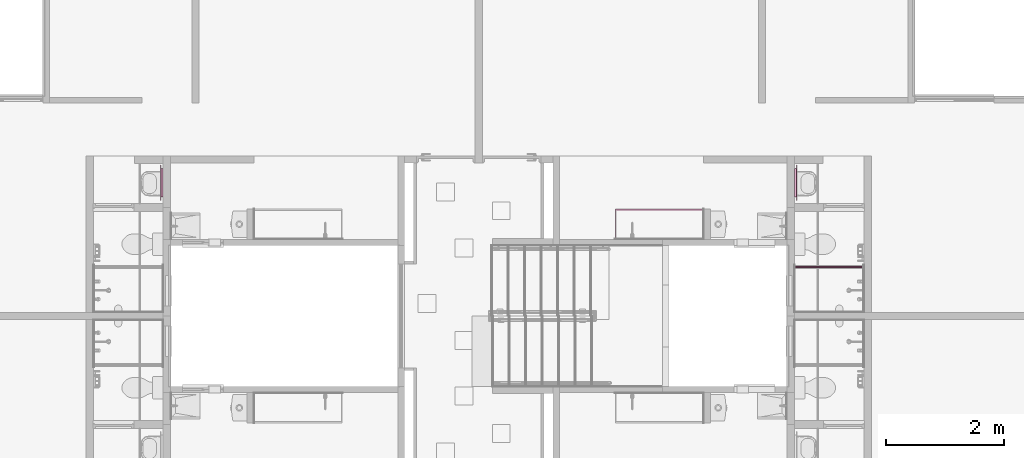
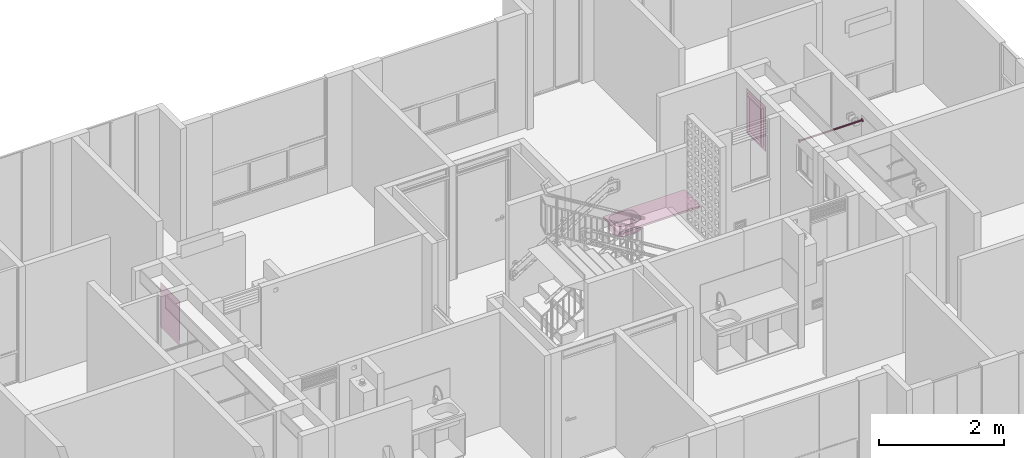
# One storey, part 44 of 48: 4 furniture elements.
"""IFC4 building model written with IfcOpenShell, lengths in metres."""

import ifcopenshell
import ifcopenshell.guid

model = None  # the IFC model being written
_history = None  # IfcOwnerHistory: only IFC2X3 demands one
_inside = {}  # id of a spatial element -> (the spatial element, [elements in it])
_under = {}  # id of a project, library or spatial element -> (it, [spatial elements below it])
_declared = {}  # id of a project -> (the project, [libraries it declares])
_typed = {}  # id of a type object -> (the type object, [elements of that type])
_made_of = {}  # id of a material, layer set ... -> (it, [elements and type objects made of it])


def new_model(schema):
    """Start an empty IFC model of exactly this schema.

    Asked for "IFC4X3", IfcOpenShell would pick the latest addendum, in which some entities
    have other attributes; the version numbers below select the first issue.
    IFC2X3 requires an IfcOwnerHistory on every rooted entity: one is made here for all.
    """
    global model, _history
    if schema == "IFC4X3":
        model = ifcopenshell.file(schema_version=(4, 3, 0, 0))
    else:
        model = ifcopenshell.file(schema=schema)
    _inside.clear()
    _under.clear()
    _declared.clear()
    _typed.clear()
    _made_of.clear()
    _history = None
    if model.schema == "IFC2X3":
        org = make("IfcOrganization", Name="unknown")
        user = make(
            "IfcPersonAndOrganization",
            ThePerson=make("IfcPerson", FamilyName="unknown"),
            TheOrganization=org,
        )
        app = make(
            "IfcApplication",
            ApplicationDeveloper=org,
            Version="unknown",
            ApplicationFullName="unknown",
            ApplicationIdentifier="unknown",
        )
        _history = make(
            "IfcOwnerHistory",
            OwningUser=user,
            OwningApplication=app,
            ChangeAction="ADDED",
            CreationDate=0,
        )
    return model


def make(cls, **values):
    """One entity of the class cls with the attributes given. An attribute that is None is left unset."""
    return model.create_entity(
        cls, **{name: value for name, value in values.items() if value is not None}
    )


def entity(cls, *values):
    """Any entity or typed value of the class cls, its attributes in the order of the schema. None: left unset."""
    e = model.create_entity(cls)
    for i, value in enumerate(values):
        if value is not None:
            e[i] = value
    return e


def rooted(cls, **values):
    """An entity with a GlobalId (a new one), such as an element, a storey or a relation."""
    return make(cls, GlobalId=ifcopenshell.guid.new(), OwnerHistory=_history, **values)


def si_unit(unit_type, name, prefix=None):
    """IfcSIUnit, for example si_unit("LENGTHUNIT", "METRE", prefix="MILLI")."""
    return make("IfcSIUnit", UnitType=unit_type, Prefix=prefix, Name=name)


def converted_unit(unit_type, name, factor, base, dimensions=None, offset=None):
    """IfcConversionBasedUnit, such as the inch: factor (a typed value) times the base unit."""
    return make(
        "IfcConversionBasedUnit"
        if offset is None
        else "IfcConversionBasedUnitWithOffset",
        ConversionOffset=offset,
        Dimensions=None
        if dimensions is None
        else entity("IfcDimensionalExponents", *dimensions),
        UnitType=unit_type,
        Name=name,
        ConversionFactor=make(
            "IfcMeasureWithUnit", ValueComponent=factor, UnitComponent=base
        ),
    )


def derived_unit(unit_type, elements):
    """IfcDerivedUnit: a product of units, each with its exponent."""
    return make(
        "IfcDerivedUnit",
        Elements=[
            make("IfcDerivedUnitElement", Unit=unit, Exponent=power)
            for unit, power in elements
        ],
        UnitType=unit_type,
    )


def assignment(units):
    """IfcUnitAssignment: the units of a project."""
    return None if units is None else make("IfcUnitAssignment", Units=units)


def point(xyz):
    """IfcCartesianPoint."""
    return None if xyz is None else make("IfcCartesianPoint", Coordinates=xyz)


def direction(xyz):
    """IfcDirection."""
    return None if xyz is None else make("IfcDirection", DirectionRatios=xyz)


def frame(location, z_axis=None, x_axis=None):
    """IfcAxis2Placement3D, a coordinate frame: its origin and axes. An axis left out is left unset."""
    return make(
        "IfcAxis2Placement3D",
        Location=point(location),
        Axis=direction(z_axis),
        RefDirection=direction(x_axis),
    )


def origin():
    """The frame at (0, 0, 0) with its axes left unset."""
    return frame((0.0, 0.0, 0.0))


def place(relative_to, where):
    """IfcLocalPlacement: puts the frame where relative to a parent placement (None: the world)."""
    return make(
        "IfcLocalPlacement", PlacementRelTo=relative_to, RelativePlacement=where
    )


def context(
    kind, dimensions, precision=None, world=None, true_north=None, identifier=None
):
    """IfcGeometricRepresentationContext, for example the 3D "Model" context."""
    return make(
        "IfcGeometricRepresentationContext",
        ContextIdentifier=identifier,
        ContextType=kind,
        CoordinateSpaceDimension=dimensions,
        Precision=precision,
        WorldCoordinateSystem=world,
        TrueNorth=true_north,
    )


def subcontext(parent, identifier, kind, view, scale=None):
    """IfcGeometricRepresentationSubContext, for example "Body" below "Model"."""
    return make(
        "IfcGeometricRepresentationSubContext",
        ContextIdentifier=identifier,
        ContextType=kind,
        ParentContext=parent,
        TargetScale=scale,
        TargetView=view,
    )


def project(units=None, contexts=None):
    """IfcProject with its units and contexts."""
    return rooted(
        "IfcProject",
        Name="project",
        RepresentationContexts=contexts,
        UnitsInContext=assignment(units),
    )


def spatial(cls, under=None, at=None, **own):
    """A site, building, storey or space (cls), placed at a placement, below another one or the project."""
    s = rooted(cls, ObjectPlacement=at, **own)
    if under is not None:
        _under.setdefault(under.id(), (under, []))[1].append(s)
    return s


def point_list(points):
    """IfcCartesianPointList2D or 3D."""
    cls = (
        "IfcCartesianPointList2D" if len(points[0]) == 2 else "IfcCartesianPointList3D"
    )
    return make(cls, CoordList=points)


def arc(*indices):
    """IfcArcIndex: an arc through three numbered points of an indexed curve."""
    return model.create_entity("IfcArcIndex", indices)


def indexed_curve(points, segments=None, self_intersect=None):
    """IfcIndexedPolyCurve: lines and arcs through numbered points (the first is 1)."""
    return make(
        "IfcIndexedPolyCurve",
        Points=point_list(points),
        Segments=segments,
        SelfIntersect=self_intersect,
    )


def outline(outer, holes=None, kind="AREA"):
    """IfcArbitraryClosedProfileDef: a profile drawn as a closed curve; with holes, ...WithVoids."""
    if holes is None:
        return make("IfcArbitraryClosedProfileDef", ProfileType=kind, OuterCurve=outer)
    return make(
        "IfcArbitraryProfileDefWithVoids",
        ProfileType=kind,
        OuterCurve=outer,
        InnerCurves=holes,
    )


def extrude(swept, where, along, depth):
    """IfcExtrudedAreaSolid: the profile swept, set in the frame where, extruded along a direction by depth."""
    return make(
        "IfcExtrudedAreaSolid",
        SweptArea=swept,
        Position=where,
        ExtrudedDirection=direction(along),
        Depth=depth,
    )


def polygons(points, faces, closed=None, point_numbers=None):
    """IfcPolygonalFaceSet: a face is its outer loop, then its inner loops; points numbered from 1."""
    made = []
    for loops in faces:
        if len(loops) == 1:
            made.append(make("IfcIndexedPolygonalFace", CoordIndex=loops[0]))
        else:
            made.append(
                make(
                    "IfcIndexedPolygonalFaceWithVoids",
                    CoordIndex=loops[0],
                    InnerCoordIndices=loops[1:],
                )
            )
    return make(
        "IfcPolygonalFaceSet",
        Coordinates=point_list(points),
        Closed=closed,
        Faces=made,
        PnIndex=point_numbers,
    )


def shape(context_of_items, identifier, shape_type, items):
    """IfcShapeRepresentation: the items that make up one representation, for example the "Body"."""
    return make(
        "IfcShapeRepresentation",
        ContextOfItems=context_of_items,
        RepresentationIdentifier=identifier,
        RepresentationType=shape_type,
        Items=items,
    )


def source(mapping_origin, context_of_items, identifier, shape_type, items):
    """IfcRepresentationMap: a shape defined once, which mapped items show again and again."""
    return make(
        "IfcRepresentationMap",
        MappingOrigin=mapping_origin,
        MappedRepresentation=shape(context_of_items, identifier, shape_type, items),
    )


def transform(
    local_origin,
    x_axis=None,
    y_axis=None,
    z_axis=None,
    scale=None,
    scale2=None,
    scale3=None,
    uniform=True,
):
    """IfcCartesianTransformationOperator3D, or its non-uniform kind. x_axis, y_axis, z_axis: its Axis1, 2, 3."""
    if uniform:
        return make(
            "IfcCartesianTransformationOperator3D",
            Axis1=direction(x_axis),
            Axis2=direction(y_axis),
            LocalOrigin=point(local_origin),
            Scale=scale,
            Axis3=direction(z_axis),
        )
    return make(
        "IfcCartesianTransformationOperator3DnonUniform",
        Axis1=direction(x_axis),
        Axis2=direction(y_axis),
        LocalOrigin=point(local_origin),
        Scale=scale,
        Axis3=direction(z_axis),
        Scale2=scale2,
        Scale3=scale3,
    )


def mapped(mapping_source, mapping_target):
    """IfcMappedItem: shows the shape of a source again, moved by a transform."""
    return make(
        "IfcMappedItem", MappingSource=mapping_source, MappingTarget=mapping_target
    )


def material(Name=None, Category=None):
    """IfcMaterial."""
    return make("IfcMaterial", Name=Name, Category=Category)


def constituent(of_material, Name=None, Category=None, fraction=None):
    """IfcMaterialConstituent: one of the materials an element consists of."""
    return make(
        "IfcMaterialConstituent",
        Name=Name,
        Material=of_material,
        Fraction=fraction,
        Category=Category,
    )


def constituent_set(constituents=None, Name=None):
    """IfcMaterialConstituentSet."""
    return make(
        "IfcMaterialConstituentSet", Name=Name, MaterialConstituents=constituents
    )


def made_of(thing, what):
    """Note that an element or type object is made of a material, layer set ...; save() writes the relation."""
    if what is not None:
        _made_of.setdefault(what.id(), (what, []))[1].append(thing)
    return thing


def type_object(cls, material=None, **own):
    """A type object (cls), such as IfcWallType, which elements share."""
    return made_of(rooted(cls, **own), material)


def type_shapes(of_type, sources):
    """Give a type object the sources (RepresentationMaps) that its elements show as mapped items."""
    of_type.RepresentationMaps = sources


def element(
    cls,
    number,
    at=None,
    inside=None,
    cuts=None,
    type_object=None,
    material=None,
    context=None,
    identifier="Body",
    shape_type=None,
    held_by="IfcProductDefinitionShape",
    body=None,
    shapes=None,
    **own,
):
    """One element of the class cls, such as IfcWall. Its Tag is "e" and its number.

    at: its placement. inside: the storey or other place that contains it. cuts: it is an
    opening in that element (IfcRelVoidsElement). A single representation is given by context,
    identifier, shape_type and body (its items); several are given by shapes. held_by: the class
    of the entity that holds the representations. save() writes the other relations.
    """
    e = rooted(cls, Tag="e%d" % number, ObjectPlacement=at, **own)
    if body is not None:
        shapes = [shape(context, identifier, shape_type, body)]
    if shapes is not None:
        e.Representation = make(held_by, Representations=shapes)
    if inside is not None:
        _inside.setdefault(inside.id(), (inside, []))[1].append(e)
    if cuts is not None:
        rooted(
            "IfcRelVoidsElement", RelatingBuildingElement=cuts, RelatedOpeningElement=e
        )
    if type_object is not None:
        _typed.setdefault(type_object.id(), (type_object, []))[1].append(e)
    return made_of(e, material)


def aggregate(whole, parts):
    """IfcRelAggregates: a whole, such as a stair, and the parts it consists of."""
    return rooted("IfcRelAggregates", RelatingObject=whole, RelatedObjects=parts)


def save(model, path):
    """Write the relations noted so far, then the file.

    IfcRelAggregates (storeys below a building ...), IfcRelContainedInSpatialStructure (elements
    in a storey), IfcRelDefinesByType, IfcRelAssociatesMaterial and IfcRelDeclares: one each for
    every whole, place, type object, material and project.
    """
    for whole, parts in _under.values():
        aggregate(whole, parts)
    for where, things in _inside.values():
        rooted(
            "IfcRelContainedInSpatialStructure",
            RelatedElements=things,
            RelatingStructure=where,
        )
    for kind, things in _typed.values():
        rooted("IfcRelDefinesByType", RelatedObjects=things, RelatingType=kind)
    for what, things in _made_of.values():
        rooted("IfcRelAssociatesMaterial", RelatedObjects=things, RelatingMaterial=what)
    for by, libraries in _declared.values():
        rooted("IfcRelDeclares", RelatingContext=by, RelatedDefinitions=libraries)
    model.write(path)


model = new_model("IFC4")

# Units and contexts
model_context = context("Model", 3, precision=1e-05, world=origin(), true_north=direction((6.123031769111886e-17, 1.0)))
body_context = subcontext(model_context, "Body", "Model", "MODEL_VIEW")
ifc_project = project(units=[si_unit("LENGTHUNIT", "METRE"), si_unit("AREAUNIT", "SQUARE_METRE"), si_unit("VOLUMEUNIT", "CUBIC_METRE"), converted_unit("PLANEANGLEUNIT", "DEGREE", entity("IfcRatioMeasure", 0.017453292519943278), si_unit("PLANEANGLEUNIT", "RADIAN"), dimensions=[0, 0, 0, 0, 0, 0, 0]), si_unit("MASSUNIT", "GRAM", prefix="KILO"), derived_unit("MASSDENSITYUNIT", [(si_unit("MASSUNIT", "GRAM", prefix="KILO"), 1), (si_unit("LENGTHUNIT", "METRE"), -3)]), derived_unit("IONCONCENTRATIONUNIT", [(si_unit("MASSUNIT", "GRAM", prefix="KILO"), 1), (si_unit("LENGTHUNIT", "METRE"), -3)]), derived_unit("MOMENTOFINERTIAUNIT", [(si_unit("LENGTHUNIT", "METRE"), 4)]), si_unit("TIMEUNIT", "SECOND"), si_unit("FREQUENCYUNIT", "HERTZ"), si_unit("THERMODYNAMICTEMPERATUREUNIT", "DEGREE_CELSIUS"), derived_unit("THERMALTRANSMITTANCEUNIT", [(si_unit("MASSUNIT", "GRAM", prefix="KILO"), 1), (si_unit("THERMODYNAMICTEMPERATUREUNIT", "KELVIN"), -1), (si_unit("TIMEUNIT", "SECOND"), -3)]), derived_unit("THERMALCONDUCTANCEUNIT", [(si_unit("MASSUNIT", "GRAM", prefix="KILO"), 1), (si_unit("THERMODYNAMICTEMPERATUREUNIT", "KELVIN"), -1), (si_unit("TIMEUNIT", "SECOND"), -3), (si_unit("LENGTHUNIT", "METRE"), 1)]), derived_unit("VOLUMETRICFLOWRATEUNIT", [(si_unit("LENGTHUNIT", "METRE"), 3), (si_unit("TIMEUNIT", "SECOND"), -1)]), derived_unit("MASSFLOWRATEUNIT", [(si_unit("MASSUNIT", "GRAM", prefix="KILO"), 1), (si_unit("TIMEUNIT", "SECOND"), -1)]), derived_unit("ROTATIONALFREQUENCYUNIT", [(si_unit("TIMEUNIT", "SECOND"), -1)]), si_unit("ELECTRICCURRENTUNIT", "AMPERE"), si_unit("ELECTRICVOLTAGEUNIT", "VOLT"), si_unit("POWERUNIT", "WATT"), si_unit("FORCEUNIT", "NEWTON", prefix="KILO"), si_unit("ILLUMINANCEUNIT", "LUX"), si_unit("LUMINOUSFLUXUNIT", "LUMEN"), si_unit("LUMINOUSINTENSITYUNIT", "CANDELA"), derived_unit("USERDEFINED", [(si_unit("MASSUNIT", "GRAM", prefix="KILO"), -1), (si_unit("LENGTHUNIT", "METRE"), -2), (si_unit("TIMEUNIT", "SECOND"), 3), (si_unit("LUMINOUSFLUXUNIT", "LUMEN"), 1)]), derived_unit("USERDEFINED", [(si_unit("MASSUNIT", "GRAM", prefix="KILO"), 1), (si_unit("TIMEUNIT", "SECOND"), -3), (si_unit("LENGTHUNIT", "METRE"), 3), (si_unit("ELECTRICCURRENTUNIT", "AMPERE"), -2)]), derived_unit("SOUNDPOWERUNIT", [(si_unit("MASSUNIT", "GRAM", prefix="KILO"), 1), (si_unit("TIMEUNIT", "SECOND"), -3), (si_unit("LENGTHUNIT", "METRE"), 2)]), derived_unit("SOUNDPRESSUREUNIT", [(si_unit("MASSUNIT", "GRAM", prefix="KILO"), 1), (si_unit("LENGTHUNIT", "METRE"), -1), (si_unit("TIMEUNIT", "SECOND"), -2)]), derived_unit("LINEARVELOCITYUNIT", [(si_unit("LENGTHUNIT", "METRE"), 1), (si_unit("TIMEUNIT", "SECOND"), -1)]), si_unit("PRESSUREUNIT", "PASCAL"), derived_unit("USERDEFINED", [(si_unit("MASSUNIT", "GRAM", prefix="KILO"), 1), (si_unit("LENGTHUNIT", "METRE"), -2), (si_unit("TIMEUNIT", "SECOND"), -2)]), derived_unit("LINEARFORCEUNIT", [(si_unit("MASSUNIT", "GRAM", prefix="KILO"), 1), (si_unit("TIMEUNIT", "SECOND"), -2)]), derived_unit("PLANARFORCEUNIT", [(si_unit("MASSUNIT", "GRAM", prefix="KILO"), 1), (si_unit("LENGTHUNIT", "METRE"), -1), (si_unit("TIMEUNIT", "SECOND"), -2)]), derived_unit("SPECIFICHEATCAPACITYUNIT", [(si_unit("THERMODYNAMICTEMPERATUREUNIT", "KELVIN"), -1), (si_unit("LENGTHUNIT", "METRE"), 2), (si_unit("TIMEUNIT", "SECOND"), -2)]), derived_unit("HEATINGVALUEUNIT", [(si_unit("LENGTHUNIT", "METRE"), 2), (si_unit("TIMEUNIT", "SECOND"), -2)]), derived_unit("VAPORPERMEABILITYUNIT", [(si_unit("LENGTHUNIT", "METRE"), -1), (si_unit("TIMEUNIT", "SECOND"), 1)]), derived_unit("DYNAMICVISCOSITYUNIT", [(si_unit("MASSUNIT", "GRAM", prefix="KILO"), 1), (si_unit("TIMEUNIT", "SECOND"), -1), (si_unit("LENGTHUNIT", "METRE"), -1)]), derived_unit("THERMALEXPANSIONCOEFFICIENTUNIT", [(si_unit("THERMODYNAMICTEMPERATUREUNIT", "KELVIN"), -1)]), derived_unit("MODULUSOFELASTICITYUNIT", [(si_unit("MASSUNIT", "GRAM", prefix="KILO"), 1), (si_unit("LENGTHUNIT", "METRE"), -1), (si_unit("TIMEUNIT", "SECOND"), -2)]), derived_unit("ISOTHERMALMOISTURECAPACITYUNIT", [(si_unit("LENGTHUNIT", "METRE"), 3), (si_unit("MASSUNIT", "GRAM", prefix="KILO"), -1)]), derived_unit("MOISTUREDIFFUSIVITYUNIT", [(si_unit("TIMEUNIT", "SECOND"), -1), (si_unit("LENGTHUNIT", "METRE"), 2)])], contexts=[model_context])

# Site, building, storey
site_placement = place(None, origin())
site = spatial("IfcSite", under=ifc_project, at=site_placement, Name="Default", CompositionType="ELEMENT")
building_placement = place(site_placement, origin())
building = spatial("IfcBuilding", under=site, at=building_placement, CompositionType="ELEMENT")
storey_placement = place(building_placement, frame((0.0, 0.0, 7.050000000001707)))
storey = spatial("IfcBuildingStorey", under=building, at=storey_placement, Name="Nivel 4", CompositionType="ELEMENT", Elevation=7.050000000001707)

# Furniture
ifc_material_1 = material(Name="Aluminio", Category="Materials")
ifc_constituent_1 = constituent(ifc_material_1, Name="Aluminio", Category="Materials")
ifc_material_2 = material(Name="ESPEJO", Category="Materials")
ifc_constituent_2 = constituent(ifc_material_2, Name="ESPEJO", Category="Materials")
ifc_constituent_set_1 = constituent_set(constituents=[ifc_constituent_1, ifc_constituent_2])
ifc_constituent_3 = constituent(ifc_material_1, Name="Aluminio", Category="Materials")
ifc_constituent_4 = constituent(ifc_material_2, Name="ESPEJO", Category="Materials")
ifc_constituent_set_2 = constituent_set(constituents=[ifc_constituent_3, ifc_constituent_4])
furniture_type_1 = type_object("IfcFurnitureType", Name="E2050 - Espejo:E2050 - 0.60m x 0.87m - Espejo", AssemblyPlace="NOTDEFINED", PredefinedType="NOTDEFINED", material=ifc_constituent_set_2)
shared_shape_1 = source(origin(), body_context, "Body", "SweptSolid", [
    extrude(outline(indexed_curve([(-0.23999999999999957, -0.3749999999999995), (0.2399999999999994, -0.3749999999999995), (0.2399999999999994, 0.37499999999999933), (-0.23999999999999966, 0.3749999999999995), (-0.23999999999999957, -0.3749999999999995)], self_intersect=False), holes=[indexed_curve([(0.2149999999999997, -0.34999999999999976), (-0.21499999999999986, -0.34999999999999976), (-0.21499999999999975, 0.34999999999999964), (0.2149999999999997, 0.34999999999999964), (0.2149999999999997, -0.34999999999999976)], self_intersect=False)]), frame((0.12499999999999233, 0.062499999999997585, 1.485), z_axis=(0.0, 1.0, 0.0), x_axis=(1.0, 0.0, 0.0)), (0.0, 0.0, 1.0), 0.037500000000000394),
    extrude(outline(indexed_curve([(-0.00350000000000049, -0.30000000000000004), (0.00350000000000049, -0.30000000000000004), (0.00350000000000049, 0.30000000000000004), (-0.00350000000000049, 0.30000000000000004), (-0.00350000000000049, -0.30000000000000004)], self_intersect=False)), frame((0.1249999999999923, 0.10350000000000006, 1.05), z_axis=(0.0, 0.0, 1.0), x_axis=(0.0, 1.0, 0.0)), (0.0, 0.0, 1.0), 0.87),
])
type_shapes(furniture_type_1, [shared_shape_1])
furniture_1_placement = place(storey_placement, frame((14.620000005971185, -4.035000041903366, -0.02000000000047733), z_axis=(0.0, 0.0, 1.0), x_axis=(0.0, -1.0, 0.0)))
element("IfcFurniture", 1, at=furniture_1_placement, inside=storey, type_object=furniture_type_1, material=ifc_constituent_set_1, Name="E2050 - Espejo:E2050 - 0.60m x 0.87m - Espejo", ObjectType="E2050 - Espejo:E2050 - 0.60m x 0.87m - Espejo", PredefinedType="NOTDEFINED", context=body_context, shape_type="MappedRepresentation", body=[
    mapped(shared_shape_1, transform((0.0, 0.0, 0.0), scale=1.0)),
])
ifc_constituent_5 = constituent(ifc_material_1, Name="Aluminio", Category="Materials")
ifc_constituent_6 = constituent(ifc_material_2, Name="ESPEJO", Category="Materials")
ifc_constituent_set_3 = constituent_set(constituents=[ifc_constituent_5, ifc_constituent_6])
ifc_constituent_7 = constituent(ifc_material_1, Name="Aluminio", Category="Materials")
ifc_constituent_8 = constituent(ifc_material_2, Name="ESPEJO", Category="Materials")
ifc_constituent_set_4 = constituent_set(constituents=[ifc_constituent_7, ifc_constituent_8])
furniture_type_2 = type_object("IfcFurnitureType", Name="E2050 - Espejo:E2050 - 0.60m x 0.87m - Espejo", AssemblyPlace="NOTDEFINED", PredefinedType="NOTDEFINED", material=ifc_constituent_set_4)
shared_shape_2 = source(origin(), body_context, "Body", "SweptSolid", [
    extrude(outline(indexed_curve([(-0.3749999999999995, -0.2399999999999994), (0.37499999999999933, -0.23999999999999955), (0.3749999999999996, 0.2399999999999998), (-0.3749999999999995, 0.23999999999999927), (-0.3749999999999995, -0.2399999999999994)], self_intersect=False), holes=[indexed_curve([(-0.34999999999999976, 0.21499999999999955), (0.34999999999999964, 0.21499999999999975), (0.34999999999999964, -0.21499999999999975), (-0.34999999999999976, -0.21499999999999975), (-0.34999999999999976, 0.21499999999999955)], self_intersect=False)]), frame((0.12499999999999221, -0.09999999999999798, 1.485), z_axis=(0.0, 1.0, 0.0), x_axis=(0.0, 0.0, -1.0)), (0.0, 0.0, 1.0), 0.037500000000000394),
    extrude(outline(indexed_curve([(-0.30000000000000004, -0.00350000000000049), (0.30000000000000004, -0.00350000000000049), (0.30000000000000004, 0.00350000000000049), (-0.30000000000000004, 0.00350000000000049), (-0.30000000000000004, -0.00350000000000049)], self_intersect=False)), frame((0.1249999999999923, -0.10350000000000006, 1.05), z_axis=(0.0, 0.0, 1.0), x_axis=(-1.0, 0.0, 0.0)), (0.0, 0.0, 1.0), 0.87),
])
type_shapes(furniture_type_2, [shared_shape_2])
furniture_2_placement = place(storey_placement, frame((4.024999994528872, -4.035000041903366, -0.02000000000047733), z_axis=(0.0, 0.0, 1.0), x_axis=(0.0, -1.0, 0.0)))
element("IfcFurniture", 2, at=furniture_2_placement, inside=storey, type_object=furniture_type_2, material=ifc_constituent_set_3, Name="E2050 - Espejo:E2050 - 0.60m x 0.87m - Espejo", ObjectType="E2050 - Espejo:E2050 - 0.60m x 0.87m - Espejo", PredefinedType="NOTDEFINED", context=body_context, shape_type="MappedRepresentation", body=[
    mapped(shared_shape_2, transform((0.0, 0.0, 0.0), scale=1.0)),
])

# Space
space_1_placement = place(storey_placement, origin())
space_1 = spatial("IfcSpace", under=storey, at=space_1_placement, Name="218", CompositionType="ELEMENT", PredefinedType="SPACE")

# Furniture
ifc_material_3 = material(Name="<Unnamed>")
furniture_type_3 = type_object("IfcFurnitureType", Name="Barra baño:E2050- Barra Baño- Acero inoxidable", AssemblyPlace="NOTDEFINED", PredefinedType="NOTDEFINED", material=ifc_material_3)
shared_shape_3 = source(origin(), body_context, "Body", "SweptSolid", [
    extrude(outline(indexed_curve([(-0.025, 0.0), (-9.341026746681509e-17, -0.025), (0.025, 2.707167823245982e-16), (-1.316959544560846e-16, 0.025)], segments=[arc(1, 2, 3), arc(3, 4, 1)], self_intersect=False)), frame((-1.1599989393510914, 0.0, 1.8000000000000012), z_axis=(1.0, 0.0, 0.0), x_axis=(0.0, 1.0, 0.0)), (0.0, 0.0, 1.0), 0.005000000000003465),
    extrude(outline(indexed_curve([(-0.03, 0.0), (-1.1209232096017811e-16, -0.029999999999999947), (0.03, 2.707167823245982e-16), (-1.3138979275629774e-16, 0.029999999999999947)], segments=[arc(1, 2, 3), arc(3, 4, 1)], self_intersect=False)), frame((-1.164998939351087, 0.0, 1.8000000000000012), z_axis=(1.0, 0.0, 0.0), x_axis=(0.0, 1.0, 0.0)), (0.0, 0.0, 1.0), 0.0049999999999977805),
    extrude(outline(indexed_curve([(-0.0125, 0.0), (-4.6705133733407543e-17, -0.012499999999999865), (0.0125, 0.0), (7.654042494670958e-19, 0.012499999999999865)], segments=[arc(1, 2, 3), arc(3, 4, 1)], self_intersect=False)), frame((-1.1549989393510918, 0.0, 1.7999999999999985), z_axis=(1.0, 0.0, 0.0), x_axis=(0.0, 1.0, 0.0)), (0.0, 0.0, 1.0), 1.149998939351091),
    extrude(outline(indexed_curve([(-0.025, 0.0), (-2.2663703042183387e-16, -0.025), (0.025, 0.0), (1.5308084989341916e-18, 0.025)], segments=[arc(1, 2, 3), arc(3, 4, 1)], self_intersect=False)), frame((-0.005000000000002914, 0.0, 1.7999999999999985), z_axis=(1.0, 0.0, 0.0), x_axis=(0.0, 1.0, 0.0)), (0.0, 0.0, 1.0), 0.005000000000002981),
    extrude(outline(indexed_curve([(-0.03, 0.0), (-2.1867373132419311e-16, -0.029999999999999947), (0.03, 0.0), (1.8369701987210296e-18, 0.029999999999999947)], segments=[arc(1, 2, 3), arc(3, 4, 1)], self_intersect=False)), frame((0.0, 0.0, 1.7999999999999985), z_axis=(1.0, 0.0, 0.0), x_axis=(0.0, 1.0, 0.0)), (0.0, 0.0, 1.0), 0.00499999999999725),
])
type_shapes(furniture_type_3, [shared_shape_3])
furniture_3_placement = place(space_1_placement, frame((14.69250000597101, -5.590000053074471, 0.1299999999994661), z_axis=(0.0, 0.0, 1.0), x_axis=(-1.0, 0.0, 0.0)))
element("IfcFurniture", 3, at=furniture_3_placement, inside=space_1, type_object=furniture_type_3, material=ifc_material_3, Name="Barra baño:E2050- Barra Baño- Acero inoxidable", ObjectType="Barra baño:E2050- Barra Baño- Acero inoxidable", PredefinedType="NOTDEFINED", context=body_context, shape_type="MappedRepresentation", body=[
    mapped(shared_shape_3, transform((0.0, 0.0, 0.0), scale=1.0)),
])

# Space
space_2_placement = place(storey_placement, origin())
space_2 = spatial("IfcSpace", under=storey, at=space_2_placement, Name="221", CompositionType="ELEMENT", PredefinedType="SPACE")

# Furniture
ifc_material_4 = material(Name="Mesón cocina", Category="Materials")
furniture_type_4 = type_object("IfcFurnitureType", Name="E1060 - Meson Socoda Radiante - 1.50 X 0.52 - Acero inoxidable:E1060 - 1.50 x 0.52 - Meson de cocina, lavadero y estufa - Acero inoxidable", AssemblyPlace="NOTDEFINED", PredefinedType="NOTDEFINED", material=ifc_material_4)
shared_shape_4 = source(origin(), body_context, "Body", "Tessellation", [
    polygons([(0.7500000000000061, 0.2600000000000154, 0.03499999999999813), (-0.7499999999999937, 0.2600000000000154, 0.03499999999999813), (-0.7499999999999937, -0.2600000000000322, 0.03499999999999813), (0.7500000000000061, -0.2600000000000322, 0.03499999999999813), (0.23610399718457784, 0.03077661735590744, 0.03499999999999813), (0.23985215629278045, 0.05924671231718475, 0.03499999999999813), (0.2508412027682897, 0.08577661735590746, 0.03499999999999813), (0.2683222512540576, 0.10855836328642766, 0.03499999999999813), (0.2911039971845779, 0.1260394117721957, 0.03499999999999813), (0.31763390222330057, 0.13702845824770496, 0.03499999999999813), (0.3461039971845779, 0.1407766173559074, 0.03499999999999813), (0.593473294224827, 0.14077661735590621, 0.03499999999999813), (0.6219433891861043, 0.13702845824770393, 0.03499999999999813), (0.6484732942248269, 0.1260394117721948, 0.03499999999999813), (0.6712550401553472, 0.10855836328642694, 0.03499999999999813), (0.6887360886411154, 0.08577661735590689, 0.03499999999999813), (0.6997251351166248, 0.05924671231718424, 0.03499999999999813), (0.7034732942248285, 0.03077661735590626, 0.03499999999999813), (0.703473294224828, -0.11422338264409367, 0.03499999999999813), (0.6997251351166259, -0.14269347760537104, 0.03499999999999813), (0.6887360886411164, -0.1692233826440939, 0.03499999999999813), (0.6712550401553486, -0.1920051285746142, 0.03499999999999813), (0.6484732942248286, -0.20948617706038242, 0.03499999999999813), (0.6219433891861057, -0.22047522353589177, 0.03499999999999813), (0.5934732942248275, -0.22422338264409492, 0.03499999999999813), (0.3461039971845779, -0.22422338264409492, 0.03499999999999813), (0.31763390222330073, -0.22047522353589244, 0.03499999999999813), (0.2911039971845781, -0.20948617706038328, 0.03499999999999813), (0.2683222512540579, -0.1920051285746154, 0.03499999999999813), (0.2508412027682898, -0.1692233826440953, 0.03499999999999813), (0.23985215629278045, -0.14269347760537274, 0.03499999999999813), (0.23610399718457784, -0.11422338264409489, 0.03499999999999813), (0.7500000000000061, 0.2600000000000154, -1.8678232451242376e-15), (0.7500000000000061, -0.2600000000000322, -1.8678232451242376e-15), (-0.7499999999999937, -0.2600000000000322, -1.8678232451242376e-15), (-0.7499999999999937, 0.2600000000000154, -1.8678232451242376e-15), (0.5934732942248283, 0.1507766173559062, -1.8678232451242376e-15), (0.34610399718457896, 0.1507766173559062, -1.8678232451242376e-15), (0.31504571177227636, 0.1466877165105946, -1.8678232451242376e-15), (0.2861039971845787, 0.13469966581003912, -1.8678232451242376e-15), (0.2612511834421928, 0.11562943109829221, -1.8678232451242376e-15), (0.2421809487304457, 0.09077661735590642, -1.8678232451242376e-15), (0.23019289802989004, 0.06183490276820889, -1.8678232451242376e-15), (0.22610399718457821, 0.030776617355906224, -1.8678232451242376e-15), (0.22610399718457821, -0.11422338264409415, -1.8678232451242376e-15), (0.2301928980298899, -0.14528166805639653, -1.8678232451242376e-15), (0.24218094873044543, -0.17422338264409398, -1.8678232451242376e-15), (0.2612511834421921, -0.19907619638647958, -1.8678232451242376e-15), (0.2861039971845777, -0.2181464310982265, -1.8678232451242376e-15), (0.31504571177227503, -0.2301344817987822, -1.8678232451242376e-15), (0.3461039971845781, -0.23422338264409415, -1.8678232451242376e-15), (0.5934732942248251, -0.23422338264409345, -1.8678232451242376e-15), (0.6245315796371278, -0.2301344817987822, -1.8678232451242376e-15), (0.6534732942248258, -0.21814643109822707, -1.8678232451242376e-15), (0.6783261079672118, -0.19907619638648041, -1.8678232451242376e-15), (0.6973963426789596, -0.17422338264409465, -1.8678232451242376e-15), (0.7093843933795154, -0.14528166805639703, -1.8678232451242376e-15), (0.7134732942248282, -0.11422338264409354, -1.8678232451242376e-15), (0.7134732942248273, 0.030776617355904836, -1.8678232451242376e-15), (0.7093843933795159, 0.061834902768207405, -1.8678232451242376e-15), (0.6973963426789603, 0.09077661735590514, -1.8678232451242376e-15), (0.6783261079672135, 0.11562943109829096, -1.8678232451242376e-15), (0.6534732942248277, 0.13469966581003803, -1.8678232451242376e-15), (0.62453157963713, 0.1466877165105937, -1.8678232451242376e-15), (0.5934732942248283, 0.15077661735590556, -0.16000000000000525), (0.6245315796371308, 0.1466877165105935, -0.16000000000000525), (0.6534732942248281, 0.13469966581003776, -0.16000000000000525), (0.6783261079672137, 0.1156294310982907, -0.16000000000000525), (0.6973963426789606, 0.0907766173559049, -0.16000000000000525), (0.7093843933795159, 0.06183490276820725, -0.16000000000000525), (0.7134732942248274, 0.030776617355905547, -0.16000000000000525), (0.7134732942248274, -0.11422338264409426, -0.16000000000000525), (0.7093843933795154, -0.1452816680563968, -0.16000000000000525), (0.6973963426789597, -0.1742233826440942, -0.16000000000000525), (0.6783261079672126, -0.19907619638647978, -0.16000000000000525), (0.6534732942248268, -0.21814643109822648, -0.16000000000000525), (0.6245315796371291, -0.2301344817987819, -0.16000000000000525), (0.5934732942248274, -0.2342233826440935, -0.16000000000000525), (0.3461039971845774, -0.23422338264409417, -0.16000000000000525), (0.3150457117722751, -0.23013448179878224, -0.16000000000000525), (0.28610399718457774, -0.21814643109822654, -0.16000000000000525), (0.26125118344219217, -0.19907619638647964, -0.16000000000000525), (0.24218094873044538, -0.17422338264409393, -0.16000000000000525), (0.2301928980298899, -0.14528166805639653, -0.16000000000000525), (0.22610399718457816, -0.11422338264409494, -0.16000000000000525), (0.22610399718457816, 0.030776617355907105, -0.16000000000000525), (0.23019289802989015, 0.06183490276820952, -0.16000000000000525), (0.2421809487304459, 0.09077661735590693, -0.16000000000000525), (0.261251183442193, 0.11562943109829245, -0.16000000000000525), (0.2861039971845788, 0.13469966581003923, -0.16000000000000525), (0.31504571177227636, 0.1466877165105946, -0.16000000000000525), (0.3461039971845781, 0.1507766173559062, -0.16000000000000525), (0.3461039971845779, 0.14077661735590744, -0.14475899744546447), (0.31763390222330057, 0.13702845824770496, -0.14475899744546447), (0.2911039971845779, 0.1260394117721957, -0.14475899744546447), (0.2683222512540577, 0.10855836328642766, -0.14475899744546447), (0.25084120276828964, 0.08577661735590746, -0.14475899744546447), (0.2398521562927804, 0.05924671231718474, -0.14475899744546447), (0.23610399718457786, 0.03077661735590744, -0.14475899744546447), (0.23610399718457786, -0.11422338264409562, -0.14475899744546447), (0.23985215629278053, -0.14269347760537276, -0.14475899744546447), (0.25084120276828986, -0.16922338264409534, -0.14475899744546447), (0.2683222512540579, -0.19200512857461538, -0.14475899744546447), (0.2911039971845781, -0.20948617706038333, -0.14475899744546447), (0.31763390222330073, -0.22047522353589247, -0.14475899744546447), (0.3461039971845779, -0.2242233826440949, -0.14475899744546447), (0.5934732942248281, -0.22422338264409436, -0.14475899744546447), (0.6219433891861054, -0.22047522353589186, -0.14475899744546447), (0.6484732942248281, -0.20948617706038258, -0.14475899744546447), (0.6712550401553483, -0.19200512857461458, -0.14475899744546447), (0.6887360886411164, -0.16922338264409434, -0.14475899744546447), (0.6997251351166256, -0.14269347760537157, -0.14475899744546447), (0.7034732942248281, -0.11422338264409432, -0.14475899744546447), (0.7034732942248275, 0.030776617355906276, -0.14475899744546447), (0.699725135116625, 0.05924671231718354, -0.14475899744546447), (0.6887360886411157, 0.08577661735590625, -0.14475899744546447), (0.6712550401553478, 0.10855836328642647, -0.14475899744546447), (0.6484732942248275, 0.1260394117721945, -0.14475899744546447), (0.6219433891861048, 0.13702845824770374, -0.14475899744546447), (0.5934732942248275, 0.14077661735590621, -0.14475899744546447)], [[[1, 2, 3, 4], [17, 18, 19, 20, 21, 22, 23, 24, 25, 26, 27, 28, 29, 30, 31, 32, 5, 6, 7, 8, 9, 10, 11, 12, 13, 14, 15, 16]], [[118, 119, 120, 93, 94, 95, 96, 97, 98, 99, 100, 101, 102, 103, 104, 105, 106, 107, 108, 109, 110, 111, 112, 113, 114, 115, 116, 117]], [[36, 33, 34, 35], [43, 44, 45, 46, 47, 48, 49, 50, 51, 52, 53, 54, 55, 56, 57, 58, 59, 60, 61, 62, 63, 64, 37, 38, 39, 40, 41, 42]], [[89, 90, 91, 92, 65, 66, 67, 68, 69, 70, 71, 72, 73, 74, 75, 76, 77, 78, 79, 80, 81, 82, 83, 84, 85, 86, 87, 88]], [[2, 1, 33, 36]], [[38, 37, 65, 92]], [[106, 26, 25, 107]], [[3, 2, 36, 35]], [[45, 44, 86, 85]], [[114, 113, 19, 18]], [[4, 3, 35, 34]], [[52, 51, 79, 78]], [[120, 12, 11, 93]], [[1, 4, 34, 33]], [[59, 58, 72, 71]], [[99, 5, 32, 100]], [[39, 91, 90, 40]], [[109, 108, 24, 23]], [[40, 90, 89, 41]], [[110, 109, 23, 22]], [[92, 91, 39, 38]], [[25, 24, 108, 107]], [[42, 88, 87, 43]], [[112, 111, 21, 20]], [[43, 87, 86, 44]], [[113, 112, 20, 19]], [[41, 89, 88, 42]], [[21, 111, 110, 22]], [[46, 84, 83, 47]], [[17, 16, 116, 115]], [[47, 83, 82, 48]], [[16, 15, 117, 116]], [[85, 84, 46, 45]], [[115, 114, 18, 17]], [[49, 81, 80, 50]], [[119, 118, 14, 13]], [[50, 80, 79, 51]], [[120, 119, 13, 12]], [[48, 82, 81, 49]], [[14, 118, 117, 15]], [[53, 77, 76, 54]], [[95, 94, 10, 9]], [[54, 76, 75, 55]], [[96, 95, 9, 8]], [[78, 77, 53, 52]], [[11, 10, 94, 93]], [[56, 74, 73, 57]], [[98, 97, 7, 6]], [[57, 73, 72, 58]], [[99, 98, 6, 5]], [[55, 75, 74, 56]], [[7, 97, 96, 8]], [[60, 70, 69, 61]], [[102, 101, 31, 30]], [[61, 69, 68, 62]], [[103, 102, 30, 29]], [[71, 70, 60, 59]], [[32, 31, 101, 100]], [[63, 67, 66, 64]], [[105, 104, 28, 27]], [[64, 66, 65, 37]], [[106, 105, 27, 26]], [[62, 68, 67, 63]], [[28, 104, 103, 29]]], closed=True),
])
type_shapes(furniture_type_4, [shared_shape_4])
furniture_4_placement = place(space_2_placement, frame((12.392500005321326, -4.86500002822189, 0.8949999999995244), z_axis=(0.0, 0.0, 1.0), x_axis=(-1.0, 0.0, 0.0)))
element("IfcFurniture", 4, at=furniture_4_placement, inside=space_2, type_object=furniture_type_4, material=ifc_material_4, Name="E1060 - Meson Socoda Radiante - 1.50 X 0.52 - Acero inoxidable:E1060 - 1.50 x 0.52 - Meson de cocina, lavadero y estufa - Acero inoxidable", ObjectType="E1060 - Meson Socoda Radiante - 1.50 X 0.52 - Acero inoxidable:E1060 - 1.50 x 0.52 - Meson de cocina, lavadero y estufa - Acero inoxidable", PredefinedType="NOTDEFINED", context=body_context, shape_type="MappedRepresentation", body=[
    mapped(shared_shape_4, transform((0.0, 0.0, 0.0), scale=1.0)),
])

save(model, "model.ifc")
